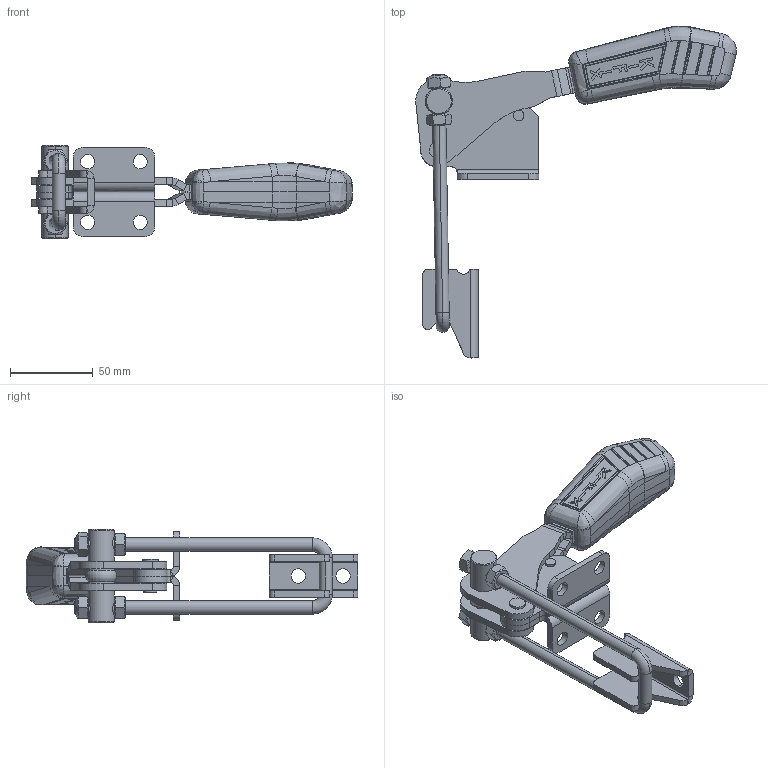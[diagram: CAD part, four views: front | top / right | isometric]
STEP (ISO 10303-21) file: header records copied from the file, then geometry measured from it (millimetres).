
FILE_DESCRIPTION (( 'STEP AP203' ), '1' );
FILE_NAME ('KF-443 D.STEP', '2018-05-11T17:32:34', ( 'Ricardo' ), ( '' ), 'SwSTEP 2.0', 'SolidWorks 2018', '' );
FILE_SCHEMA (( 'CONFIG_CONTROL_DESIGN' ));
Length unit declared in the file: millimetre
Products named in the file (13): 15.10183; 02.12212_Direita; 06.50030; 02.12212_Esquerda; 06.50026; 01.10320_Montagem; 07.60002; 01.10320_Esquerda; KF-443 D; 16.20101; 03.20029; 11.50017; 11.50002
Assembly tree (14 placements, depth 2):
  KF-443 D
    02.12212_Direita
    02.12212_Esquerda
    01.10320_Montagem
    01.10320_Esquerda
    16.20101
    03.20029
    11.50017  x2
    11.50002  x2
    15.10183
    06.50030
    06.50026
    07.60002
Bounding box: 193.47 x 200.38 x 56.5 mm (x, y, z)
Volume: 181106.6 mm3; surface area: 74316.6 mm2
Topology: 14 solids, 14 shells, 676 faces, 1709 edges, 1067 vertices
Faces by surface type: plane 253, cylinder 165, bspline 161, sphere 52, cone 36, torus 9
Entity records: 25050 total; most frequent: CARTESIAN_POINT 9588, ORIENTED_EDGE 3214, DIRECTION 2508, EDGE_CURVE 1607, VERTEX_POINT 1007, AXIS2_PLACEMENT_3D 950, EDGE_LOOP 700, FACE_OUTER_BOUND 642
